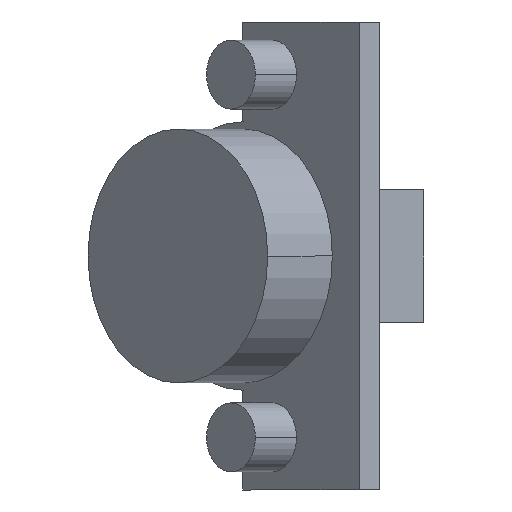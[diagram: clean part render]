
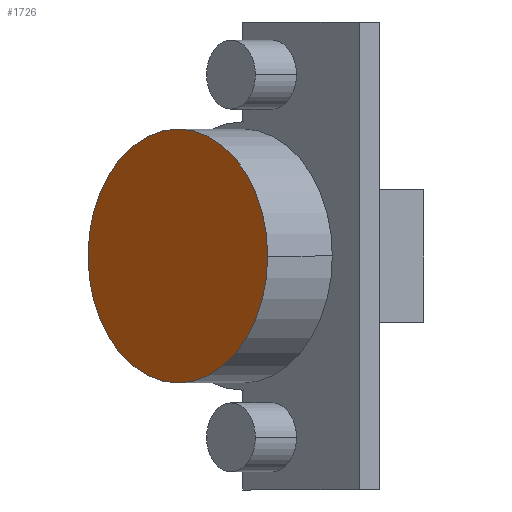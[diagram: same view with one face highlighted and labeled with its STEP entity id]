
A CAD part, front view. The second image highlights one B-rep face of the part: STEP entity #1726.
In plain terms, the highlighted planar face has unit normal (-0.707, -0.707, 0).
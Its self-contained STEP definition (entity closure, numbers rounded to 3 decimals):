
#83 = VERTEX_POINT ( 'NONE', #175 ) ;
#96 = VERTEX_POINT ( 'NONE', #188 ) ;
#175 = CARTESIAN_POINT ( 'NONE',  ( 20.065, -21.284, 0. ) ) ;
#188 = CARTESIAN_POINT ( 'NONE',  ( -4.684, 3.465, 0. ) ) ;
#229 = CARTESIAN_POINT ( 'NONE',  ( 7.69, -8.91, 0. ) ) ;
#230 = DIRECTION ( 'NONE',  ( -0.707, -0.707, 0. ) ) ;
#231 = DIRECTION ( 'NONE',  ( 0.707, -0.707, 0. ) ) ;
#467 = CARTESIAN_POINT ( 'NONE',  ( 7.69, -8.91, 0. ) ) ;
#471 = DIRECTION ( 'NONE',  ( -0.707, -0.707, 0. ) ) ;
#472 = DIRECTION ( 'NONE',  ( 0.707, -0.707, 0. ) ) ;
#556 = CARTESIAN_POINT ( 'NONE',  ( 7.69, -8.91, 0. ) ) ;
#557 = PLANE ( 'NONE',  #978 ) ;
#559 = DIRECTION ( 'NONE',  ( -0.707, -0.707, 0. ) ) ;
#560 = DIRECTION ( 'NONE',  ( 0.707, -0.707, 0. ) ) ;
#797 = AXIS2_PLACEMENT_3D ( 'NONE', #229, #230, #231 ) ;
#801 = EDGE_CURVE ( 'NONE', #96, #83, #1385, .T. ) ;
#913 = EDGE_CURVE ( 'NONE', #83, #96, #1592, .T. ) ;
#957 = AXIS2_PLACEMENT_3D ( 'NONE', #467, #471, #472 ) ;
#978 = AXIS2_PLACEMENT_3D ( 'NONE', #556, #559, #560 ) ;
#1069 = EDGE_LOOP ( 'NONE', ( #1305, #1304 ) ) ;
#1304 = ORIENTED_EDGE ( 'NONE', *, *, #913, .T. ) ;
#1305 = ORIENTED_EDGE ( 'NONE', *, *, #801, .T. ) ;
#1385 = CIRCLE ( 'NONE', #797, 17.5 ) ;
#1592 = CIRCLE ( 'NONE', #957, 17.5 ) ;
#1640 = FACE_OUTER_BOUND ( 'NONE', #1069, .T. ) ;
#1726 = ADVANCED_FACE ( 'NONE', ( #1640 ), #557, .T. ) ;
